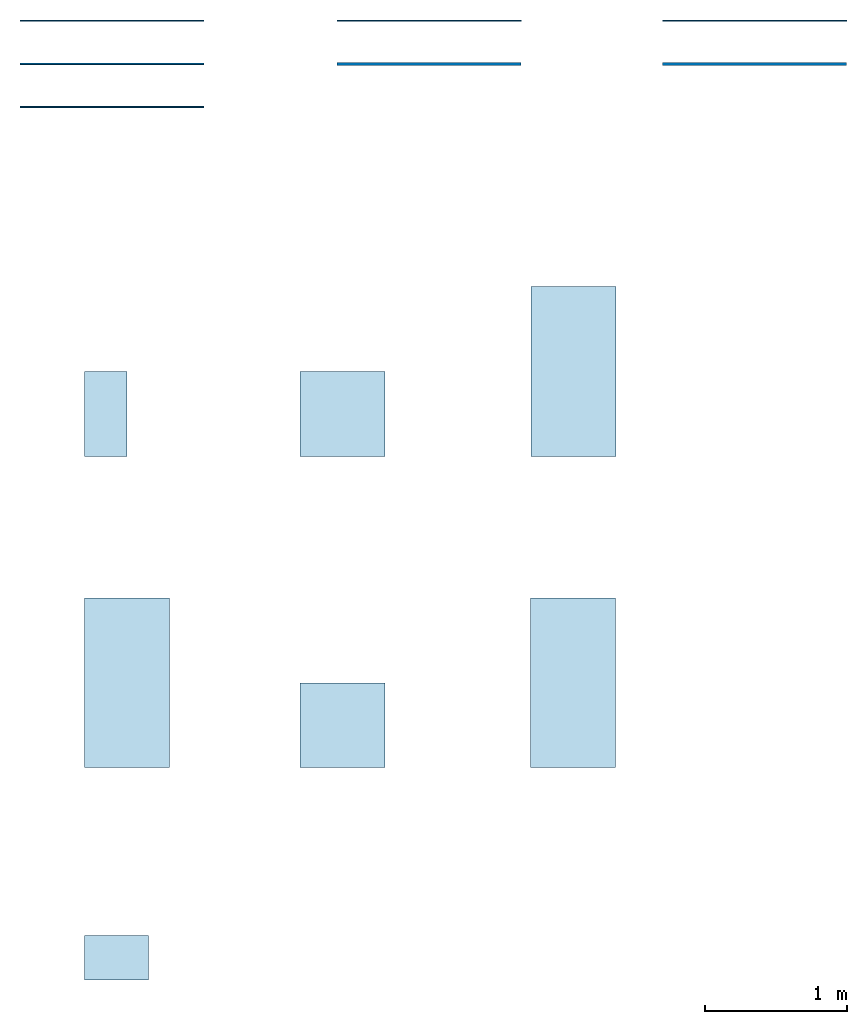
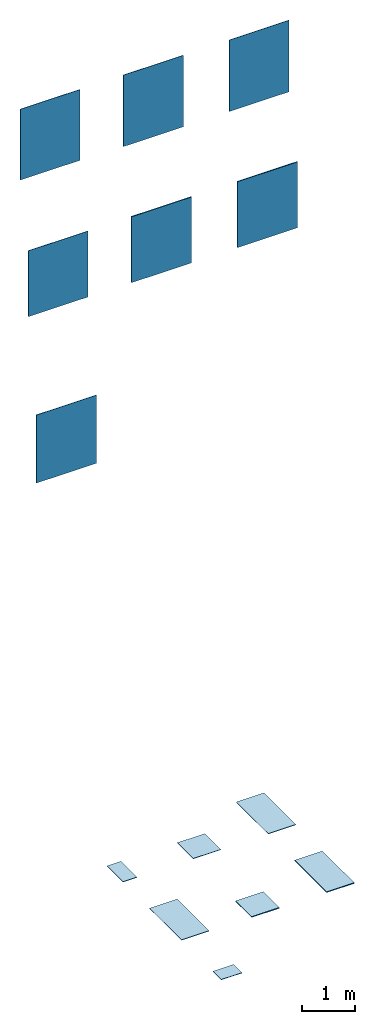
# One storey: 7 slabs, 7 walls.
"""IFC2X3 building model written with IfcOpenShell, lengths in millimetres."""

from ifc_helpers import new_model, entity, si_unit, converted_unit, derived_unit, direction, frame, frame_2d, origin, origin_2d_with_axis, place, context, subcontext, project, spatial, rectangle, extrude, material, layer, layer_set, layer_usage, type_object, element, save


model = new_model("IFC2X3")

# Units and contexts
model_context = context("Model", 3, precision=0.01, world=origin(), true_north=direction((6.12303176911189e-17, 1.0)))
body_context = subcontext(model_context, "Body", "Model", "MODEL_VIEW")
ifc_project = project(units=[si_unit("LENGTHUNIT", "METRE", prefix="MILLI"), si_unit("AREAUNIT", "SQUARE_METRE"), si_unit("VOLUMEUNIT", "CUBIC_METRE"), converted_unit("PLANEANGLEUNIT", "DEGREE", entity("IfcRatioMeasure", 0.0174532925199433), si_unit("PLANEANGLEUNIT", "RADIAN"), dimensions=[0, 0, 0, 0, 0, 0, 0]), si_unit("MASSUNIT", "GRAM", prefix="KILO"), derived_unit("MASSDENSITYUNIT", [(si_unit("MASSUNIT", "GRAM", prefix="KILO"), 1), (si_unit("LENGTHUNIT", "METRE"), -3)]), derived_unit("MOMENTOFINERTIAUNIT", [(si_unit("LENGTHUNIT", "METRE"), 4)]), si_unit("TIMEUNIT", "SECOND"), si_unit("FREQUENCYUNIT", "HERTZ"), si_unit("THERMODYNAMICTEMPERATUREUNIT", "DEGREE_CELSIUS"), derived_unit("THERMALTRANSMITTANCEUNIT", [(si_unit("MASSUNIT", "GRAM", prefix="KILO"), 1), (si_unit("THERMODYNAMICTEMPERATUREUNIT", "KELVIN"), -1), (si_unit("TIMEUNIT", "SECOND"), -3)]), derived_unit("VOLUMETRICFLOWRATEUNIT", [(si_unit("LENGTHUNIT", "METRE"), 3), (si_unit("TIMEUNIT", "SECOND"), -1)]), si_unit("ELECTRICCURRENTUNIT", "AMPERE"), si_unit("ELECTRICVOLTAGEUNIT", "VOLT"), si_unit("POWERUNIT", "WATT"), si_unit("FORCEUNIT", "NEWTON", prefix="KILO"), si_unit("ILLUMINANCEUNIT", "LUX"), si_unit("LUMINOUSFLUXUNIT", "LUMEN"), si_unit("LUMINOUSINTENSITYUNIT", "CANDELA"), derived_unit("USERDEFINED", [(si_unit("MASSUNIT", "GRAM", prefix="KILO"), -1), (si_unit("LENGTHUNIT", "METRE"), -2), (si_unit("TIMEUNIT", "SECOND"), 3), (si_unit("LUMINOUSFLUXUNIT", "LUMEN"), 1)]), derived_unit("LINEARVELOCITYUNIT", [(si_unit("LENGTHUNIT", "METRE"), 1), (si_unit("TIMEUNIT", "SECOND"), -1)]), si_unit("PRESSUREUNIT", "PASCAL"), derived_unit("USERDEFINED", [(si_unit("LENGTHUNIT", "METRE"), -2), (si_unit("MASSUNIT", "GRAM", prefix="KILO"), 1), (si_unit("TIMEUNIT", "SECOND"), -2)]), derived_unit("LINEARFORCEUNIT", [(si_unit("MASSUNIT", "GRAM", prefix="KILO"), 1), (si_unit("LENGTHUNIT", "METRE"), 1), (si_unit("TIMEUNIT", "SECOND"), -2), (si_unit("LENGTHUNIT", "METRE"), -1)]), derived_unit("PLANARFORCEUNIT", [(si_unit("MASSUNIT", "GRAM", prefix="KILO"), 1), (si_unit("LENGTHUNIT", "METRE"), 1), (si_unit("TIMEUNIT", "SECOND"), -2), (si_unit("LENGTHUNIT", "METRE"), -2)])], contexts=[model_context])

# Site, building, storey
site_placement = place(None, origin())
site = spatial("IfcSite", under=ifc_project, at=site_placement, Name="Default", CompositionType="ELEMENT")
building_placement = place(site_placement, origin())
building = spatial("IfcBuilding", under=site, at=building_placement, CompositionType="ELEMENT")
storey_placement = place(building_placement, origin())
storey = spatial("IfcBuildingStorey", under=building, at=storey_placement, Name="Level 0", CompositionType="ELEMENT", Elevation=0.0)

# Slabs
ifc_material_1 = material(Name="Blended-Grey-60x120 OA55")
ifc_layer_1 = layer(ifc_material_1, 9.0)
ifc_material_2 = material(Name="<Unnamed>")
ifc_layer_2 = layer(ifc_material_2, 1.0)
ifc_layer_set_1 = layer_set([ifc_layer_1, ifc_layer_2], Name="Floor:Floor_Tiles_Refin-Blended-Grey-60x120 OA55")
ifc_layer_usage_1 = layer_usage(ifc_layer_set_1, "AXIS3", "POSITIVE", 0.0)
slab_type_1 = type_object("IfcSlabType", Name="Floor:Floor_Tiles_Refin-Blended-Grey-60x120 OA55", PredefinedType="FLOOR", material=ifc_layer_set_1)
slab_1_placement = place(storey_placement, origin())
element("IfcSlab", 1, at=slab_1_placement, inside=storey, type_object=slab_type_1, material=ifc_layer_usage_1, Name="Floor:Floor_Tiles_Refin-Blended-Grey-60x120 OA55", ObjectType="Floor:Floor_Tiles_Refin-Blended-Grey-60x120 OA55", PredefinedType="FLOOR", context=body_context, shape_type="SweptSolid", body=[
    extrude(rectangle(XDim=1200.0, YDim=600.0, at=frame_2d((0.0, 1.08002495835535e-12), x_axis=(1.0, 0.0))), frame((9827.18614186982, 5659.46237428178, 0.0), z_axis=(0.0, 0.0, -1.0), x_axis=(0.0, 1.0, 0.0)), (0.0, 0.0, 1.0), 10.0),
])
ifc_material_3 = material(Name="Blended-Grey-30x60 OA90")
ifc_layer_3 = layer(ifc_material_3, 9.0)
ifc_layer_4 = layer(ifc_material_2, 1.0)
ifc_layer_set_2 = layer_set([ifc_layer_3, ifc_layer_4], Name="Floor:Floor_Tiles_Refin-Blended-Grey-30x60 OA90")
ifc_layer_usage_2 = layer_usage(ifc_layer_set_2, "AXIS3", "POSITIVE", 0.0)
slab_type_2 = type_object("IfcSlabType", Name="Floor:Floor_Tiles_Refin-Blended-Grey-30x60 OA90", PredefinedType="FLOOR", material=ifc_layer_set_2)
slab_2_placement = place(storey_placement, origin())
element("IfcSlab", 2, at=slab_2_placement, inside=storey, type_object=slab_type_2, material=ifc_layer_usage_2, Name="Floor:Floor_Tiles_Refin-Blended-Grey-30x60 OA90", ObjectType="Floor:Floor_Tiles_Refin-Blended-Grey-30x60 OA90", PredefinedType="FLOOR", context=body_context, shape_type="SweptSolid", body=[
    extrude(rectangle(XDim=600.0, YDim=300.0, at=frame_2d((0.0, -5.40012479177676e-13), x_axis=(1.0, 0.0))), frame((6524.37520617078, 5359.4623742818, 0.0), z_axis=(0.0, 0.0, -1.0), x_axis=(0.0, 1.0, 0.0)), (0.0, 0.0, 1.0), 10.0),
])
ifc_material_4 = material(Name="Blended-Grey-OUT2.0-60x60 OB60")
ifc_layer_5 = layer(ifc_material_4, 20.0)
ifc_layer_6 = layer(ifc_material_2, 1.0)
ifc_layer_set_3 = layer_set([ifc_layer_5, ifc_layer_6], Name="Floor:Floor_Tiles_Refin-Blended-Grey-OUT2.0_60X60_OB60")
ifc_layer_usage_3 = layer_usage(ifc_layer_set_3, "AXIS3", "POSITIVE", 0.0)
slab_type_3 = type_object("IfcSlabType", Name="Floor:Floor_Tiles_Refin-Blended-Grey-OUT2.0_60X60_OB60", PredefinedType="FLOOR", material=ifc_layer_set_3)
slab_3_placement = place(storey_placement, origin())
element("IfcSlab", 3, at=slab_3_placement, inside=storey, type_object=slab_type_3, material=ifc_layer_usage_3, Name="Floor:Floor_Tiles_Refin-Blended-Grey-OUT2.0_60X60_OB60", ObjectType="Floor:Floor_Tiles_Refin-Blended-Grey-OUT2.0_60X60_OB60", PredefinedType="FLOOR", context=body_context, shape_type="SweptSolid", body=[
    extrude(rectangle(XDim=600.0, YDim=600.0, at=frame_2d((0.0, -1.08002495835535e-12), x_axis=(1.0, 0.0))), frame((8197.39240545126, 3159.4623742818, 0.0), z_axis=(0.0, 0.0, -1.0), x_axis=(0.0, 1.0, 0.0)), (0.0, 0.0, 1.0), 21.0),
])
ifc_material_5 = material(Name="Blended-Grey-GRIP-60x120 OB66")
ifc_layer_7 = layer(ifc_material_5, 9.0)
ifc_layer_8 = layer(ifc_material_2, 1.0)
ifc_layer_set_4 = layer_set([ifc_layer_7, ifc_layer_8], Name="Floor:Floor_Tiles_Refin-Blended-Grey-GRIP-60x120 OB66")
ifc_layer_usage_4 = layer_usage(ifc_layer_set_4, "AXIS3", "POSITIVE", 0.0)
slab_type_4 = type_object("IfcSlabType", Name="Floor:Floor_Tiles_Refin-Blended-Grey-GRIP-60x120 OB66", PredefinedType="FLOOR", material=ifc_layer_set_4)
slab_4_placement = place(storey_placement, origin())
element("IfcSlab", 4, at=slab_4_placement, inside=storey, type_object=slab_type_4, material=ifc_layer_usage_4, Name="Floor:Floor_Tiles_Refin-Blended-Grey-GRIP-60x120 OB66", ObjectType="Floor:Floor_Tiles_Refin-Blended-Grey-GRIP-60x120 OB66", PredefinedType="FLOOR", context=body_context, shape_type="SweptSolid", body=[
    extrude(rectangle(XDim=1200.0, YDim=600.0, at=frame_2d((0.0, 1.08002495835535e-12), x_axis=(1.0, 0.0))), frame((6674.37520617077, 3459.4623742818, 0.0), z_axis=(0.0, 0.0, -1.0), x_axis=(0.0, 1.0, 0.0)), (0.0, 0.0, 1.0), 10.0),
])
ifc_material_6 = material(Name="Blended-Grey-OUT2.0-60x120 OB62")
ifc_layer_9 = layer(ifc_material_6, 20.0)
ifc_layer_10 = layer(ifc_material_2, 1.0)
ifc_layer_set_5 = layer_set([ifc_layer_9, ifc_layer_10], Name="Floor:Floor_Tiles_Refin-Blended-Grey-OUT2.0_60X120_OB62")
ifc_layer_usage_5 = layer_usage(ifc_layer_set_5, "AXIS3", "POSITIVE", 0.0)
slab_type_5 = type_object("IfcSlabType", Name="Floor:Floor_Tiles_Refin-Blended-Grey-OUT2.0_60X120_OB62", PredefinedType="FLOOR", material=ifc_layer_set_5)
slab_5_placement = place(storey_placement, origin())
element("IfcSlab", 5, at=slab_5_placement, inside=storey, type_object=slab_type_5, material=ifc_layer_usage_5, Name="Floor:Floor_Tiles_Refin-Blended-Grey-OUT2.0_60X120_OB62", ObjectType="Floor:Floor_Tiles_Refin-Blended-Grey-OUT2.0_60X120_OB62", PredefinedType="FLOOR", context=body_context, shape_type="SweptSolid", body=[
    extrude(rectangle(XDim=1200.0, YDim=600.0, at=frame_2d((0.0, 1.08002495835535e-12), x_axis=(1.0, 0.0))), frame((9825.41186876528, 3459.4623742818, 0.0), z_axis=(0.0, 0.0, -1.0), x_axis=(0.0, 1.0, 0.0)), (0.0, 0.0, 1.0), 21.0),
])
ifc_material_7 = material(Name="Blended-Grey-60x60 OA85")
ifc_layer_11 = layer(ifc_material_7, 9.0)
ifc_layer_12 = layer(ifc_material_2, 1.0)
ifc_layer_set_6 = layer_set([ifc_layer_11, ifc_layer_12], Name="Floor:Floor_Tiles_Refin-Blended-Grey-60x60 OA85")
ifc_layer_usage_6 = layer_usage(ifc_layer_set_6, "AXIS3", "POSITIVE", 0.0)
slab_type_6 = type_object("IfcSlabType", Name="Floor:Floor_Tiles_Refin-Blended-Grey-60x60 OA85", PredefinedType="FLOOR", material=ifc_layer_set_6)
slab_6_placement = place(storey_placement, origin())
element("IfcSlab", 6, at=slab_6_placement, inside=storey, type_object=slab_type_6, material=ifc_layer_usage_6, Name="Floor:Floor_Tiles_Refin-Blended-Grey-60x60 OA85", ObjectType="Floor:Floor_Tiles_Refin-Blended-Grey-60x60 OA85", PredefinedType="FLOOR", context=body_context, shape_type="SweptSolid", body=[
    extrude(rectangle(XDim=600.0, YDim=600.0, at=origin_2d_with_axis()), frame((8197.39240545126, 5358.41920639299, 0.0), z_axis=(0.0, 0.0, -1.0), x_axis=(0.0, 1.0, 0.0)), (0.0, 0.0, 1.0), 10.0),
])
ifc_material_8 = material(Name="Blended-Grey-MURETTO-3D-31.5x45 NX93")
ifc_layer_13 = layer(ifc_material_8, 10.0)
ifc_layer_14 = layer(ifc_material_2, 1.0)
ifc_layer_set_7 = layer_set([ifc_layer_13, ifc_layer_14], Name="Floor:Floor_Tiles_Refin-Blended-Grey-MURETTO-3D-31.5x45 NX93")
ifc_layer_usage_7 = layer_usage(ifc_layer_set_7, "AXIS3", "POSITIVE", 0.0)
slab_type_7 = type_object("IfcSlabType", Name="Floor:Floor_Tiles_Refin-Blended-Grey-MURETTO-3D-31.5x45 NX93", PredefinedType="FLOOR", material=ifc_layer_set_7)
slab_7_placement = place(storey_placement, origin())
element("IfcSlab", 7, at=slab_7_placement, inside=storey, type_object=slab_type_7, material=ifc_layer_usage_7, Name="Floor:Floor_Tiles_Refin-Blended-Grey-MURETTO-3D-31.5x45 NX93", ObjectType="Floor:Floor_Tiles_Refin-Blended-Grey-MURETTO-3D-31.5x45 NX93", PredefinedType="FLOOR", context=body_context, shape_type="SweptSolid", body=[
    extrude(rectangle(XDim=315.0, YDim=449.999999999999, at=frame_2d((0.0, -1.08002495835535e-12), x_axis=(1.0, 0.0))), frame((6599.37520617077, 1516.9623742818, 0.0), z_axis=(0.0, 0.0, -1.0), x_axis=(0.0, 1.0, 0.0)), (0.0, 0.0, 1.0), 11.0),
])

# Walls
ifc_layer_15 = layer(ifc_material_2, 1.0)
ifc_layer_16 = layer(ifc_material_7, 9.0)
ifc_layer_set_8 = layer_set([ifc_layer_15, ifc_layer_16], Name="Basic Wall:Wall_Tiles_Refin-Blended-Grey-60x60 OA85")
ifc_layer_usage_8 = layer_usage(ifc_layer_set_8, "AXIS2", "NEGATIVE", 5.0)
wall_type_1 = type_object("IfcWallType", Name="Basic Wall:Wall_Tiles_Refin-Blended-Grey-60x60 OA85", PredefinedType="STANDARD", material=ifc_layer_set_8)
wall_1_placement = place(storey_placement, frame((8157.37520617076, 8137.38386313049, 14387.6770443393)))
element("IfcWallStandardCase", 8, at=wall_1_placement, inside=storey, type_object=wall_type_1, material=ifc_layer_usage_8, Name="Basic Wall:Wall_Tiles_Refin-Blended-Grey-60x60 OA85", ObjectType="Basic Wall:Wall_Tiles_Refin-Blended-Grey-60x60 OA85", context=body_context, shape_type="SweptSolid", body=[
    extrude(rectangle(XDim=1300.0, YDim=9.99999999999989, at=frame_2d((650.0, 7.63833440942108e-14), x_axis=(-1.0, 0.0))), origin(), (0.0, 0.0, 1.0), 1641.74173522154),
])
ifc_layer_17 = layer(ifc_material_2, 1.0)
ifc_layer_18 = layer(ifc_material_1, 9.0)
ifc_layer_set_9 = layer_set([ifc_layer_17, ifc_layer_18], Name="Basic Wall:Wall_Tiles_Refin-Blended-Grey-60x120 OA55")
ifc_layer_usage_9 = layer_usage(ifc_layer_set_9, "AXIS2", "NEGATIVE", 5.0)
wall_type_2 = type_object("IfcWallType", Name="Basic Wall:Wall_Tiles_Refin-Blended-Grey-60x120 OA55", PredefinedType="STANDARD", material=ifc_layer_set_9)
wall_2_placement = place(storey_placement, frame((10457.3752061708, 8137.38386313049, 14387.6770443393)))
element("IfcWallStandardCase", 9, at=wall_2_placement, inside=storey, type_object=wall_type_2, material=ifc_layer_usage_9, Name="Basic Wall:Wall_Tiles_Refin-Blended-Grey-60x120 OA55", ObjectType="Basic Wall:Wall_Tiles_Refin-Blended-Grey-60x120 OA55", context=body_context, shape_type="SweptSolid", body=[
    extrude(rectangle(XDim=1300.0, YDim=9.99999999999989, at=frame_2d((650.0, 7.63833440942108e-14), x_axis=(-1.0, 0.0))), origin(), (0.0, 0.0, 1.0), 1641.74173522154),
])
ifc_layer_19 = layer(ifc_material_2, 1.0)
ifc_layer_20 = layer(ifc_material_3, 9.0)
ifc_layer_set_10 = layer_set([ifc_layer_19, ifc_layer_20], Name="Basic Wall:Wall_Tiles_Refin-Blended-Grey-30x60 OA90")
ifc_layer_usage_10 = layer_usage(ifc_layer_set_10, "AXIS2", "NEGATIVE", 5.0)
wall_type_3 = type_object("IfcWallType", Name="Basic Wall:Wall_Tiles_Refin-Blended-Grey-30x60 OA90", PredefinedType="STANDARD", material=ifc_layer_set_10)
wall_3_placement = place(storey_placement, frame((5917.37520617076, 8137.38386313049, 14403.726734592)))
element("IfcWallStandardCase", 10, at=wall_3_placement, inside=storey, type_object=wall_type_3, material=ifc_layer_usage_10, Name="Basic Wall:Wall_Tiles_Refin-Blended-Grey-30x60 OA90", ObjectType="Basic Wall:Wall_Tiles_Refin-Blended-Grey-30x60 OA90", context=body_context, shape_type="SweptSolid", body=[
    extrude(rectangle(XDim=1300.0, YDim=9.99999999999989, at=frame_2d((650.0, 7.63833440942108e-14), x_axis=(-1.0, 0.0))), origin(), (0.0, 0.0, 1.0), 1625.69204496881),
])
ifc_layer_21 = layer(ifc_material_2, 1.0)
ifc_layer_22 = layer(ifc_material_5, 9.0)
ifc_layer_set_11 = layer_set([ifc_layer_21, ifc_layer_22], Name="Basic Wall:Wall_Tiles_Refin-Blended-Grey-GRIP-60x120 OB66")
ifc_layer_usage_11 = layer_usage(ifc_layer_set_11, "AXIS2", "NEGATIVE", 5.0)
wall_type_4 = type_object("IfcWallType", Name="Basic Wall:Wall_Tiles_Refin-Blended-Grey-GRIP-60x120 OB66", PredefinedType="STANDARD", material=ifc_layer_set_11)
wall_4_placement = place(storey_placement, frame((5917.37520617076, 7832.38386313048, 11452.5436262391)))
element("IfcWallStandardCase", 11, at=wall_4_placement, inside=storey, type_object=wall_type_4, material=ifc_layer_usage_11, Name="Basic Wall:Wall_Tiles_Refin-Blended-Grey-GRIP-60x120 OB66", ObjectType="Basic Wall:Wall_Tiles_Refin-Blended-Grey-GRIP-60x120 OB66", context=body_context, shape_type="SweptSolid", body=[
    extrude(rectangle(XDim=1300.0, YDim=9.99999999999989, at=frame_2d((650.0, 0.0), x_axis=(-1.0, 0.0))), origin(), (0.0, 0.0, 1.0), 1513.19855655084),
])
ifc_layer_23 = layer(ifc_material_2, 1.0)
ifc_layer_24 = layer(ifc_material_4, 20.0)
ifc_layer_set_12 = layer_set([ifc_layer_23, ifc_layer_24], Name="Basic Wall:Wall_Tiles_Refin-Blended-Grey-OUT2.0-60x60 OB60")
ifc_layer_usage_12 = layer_usage(ifc_layer_set_12, "AXIS2", "NEGATIVE", 10.5)
wall_type_5 = type_object("IfcWallType", Name="Basic Wall:Wall_Tiles_Refin-Blended-Grey-OUT2.0-60x60 OB60", PredefinedType="STANDARD", material=ifc_layer_set_12)
wall_5_placement = place(storey_placement, frame((8157.37520617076, 7832.38386313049, 11452.5436262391)))
element("IfcWallStandardCase", 12, at=wall_5_placement, inside=storey, type_object=wall_type_5, material=ifc_layer_usage_12, Name="Basic Wall:Wall_Tiles_Refin-Blended-Grey-OUT2.0-60x60 OB60", ObjectType="Basic Wall:Wall_Tiles_Refin-Blended-Grey-OUT2.0-60x60 OB60", context=body_context, shape_type="SweptSolid", body=[
    extrude(rectangle(XDim=1300.0, YDim=20.9999999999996, at=frame_2d((650.0, 0.0), x_axis=(-1.0, 0.0))), origin(), (0.0, 0.0, 1.0), 1513.19855655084),
])
ifc_layer_25 = layer(ifc_material_2, 1.0)
ifc_layer_26 = layer(ifc_material_6, 20.0)
ifc_layer_set_13 = layer_set([ifc_layer_25, ifc_layer_26], Name="Basic Wall:Wall_Tiles_Refin-Blended-Grey-OUT2.0-60x120 OB62")
ifc_layer_usage_13 = layer_usage(ifc_layer_set_13, "AXIS2", "NEGATIVE", 10.5)
wall_type_6 = type_object("IfcWallType", Name="Basic Wall:Wall_Tiles_Refin-Blended-Grey-OUT2.0-60x120 OB62", PredefinedType="STANDARD", material=ifc_layer_set_13)
wall_6_placement = place(storey_placement, frame((10457.3752061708, 7832.38386313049, 11452.5436262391)))
element("IfcWallStandardCase", 13, at=wall_6_placement, inside=storey, type_object=wall_type_6, material=ifc_layer_usage_13, Name="Basic Wall:Wall_Tiles_Refin-Blended-Grey-OUT2.0-60x120 OB62", ObjectType="Basic Wall:Wall_Tiles_Refin-Blended-Grey-OUT2.0-60x120 OB62", context=body_context, shape_type="SweptSolid", body=[
    extrude(rectangle(XDim=1300.0, YDim=20.9999999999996, at=frame_2d((650.000000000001, 0.0), x_axis=(-1.0, 0.0))), origin(), (0.0, 0.0, 1.0), 1513.19855655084),
])
ifc_layer_27 = layer(ifc_material_2, 1.0)
ifc_layer_28 = layer(ifc_material_8, 10.0)
ifc_layer_set_14 = layer_set([ifc_layer_27, ifc_layer_28], Name="Basic Wall:Wall_Tiles_Refin-Blended-Grey-MURETTO-3D-31.5x45 NX93")
ifc_layer_usage_14 = layer_usage(ifc_layer_set_14, "AXIS2", "NEGATIVE", 5.5)
wall_type_7 = type_object("IfcWallType", Name="Basic Wall:Wall_Tiles_Refin-Blended-Grey-MURETTO-3D-31.5x45 NX93", PredefinedType="STANDARD", material=ifc_layer_set_14)
wall_7_placement = place(storey_placement, frame((5917.37520617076, 7527.38386313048, 7818.26721182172)))
element("IfcWallStandardCase", 14, at=wall_7_placement, inside=storey, type_object=wall_type_7, material=ifc_layer_usage_14, Name="Basic Wall:Wall_Tiles_Refin-Blended-Grey-MURETTO-3D-31.5x45 NX93", ObjectType="Basic Wall:Wall_Tiles_Refin-Blended-Grey-MURETTO-3D-31.5x45 NX93", context=body_context, shape_type="SweptSolid", body=[
    extrude(rectangle(XDim=1300.0, YDim=10.9999999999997, at=frame_2d((650.0, 0.0), x_axis=(-1.0, 0.0))), origin(), (0.0, 0.0, 1.0), 1563.44506049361),
])

save(model, "model.ifc")
